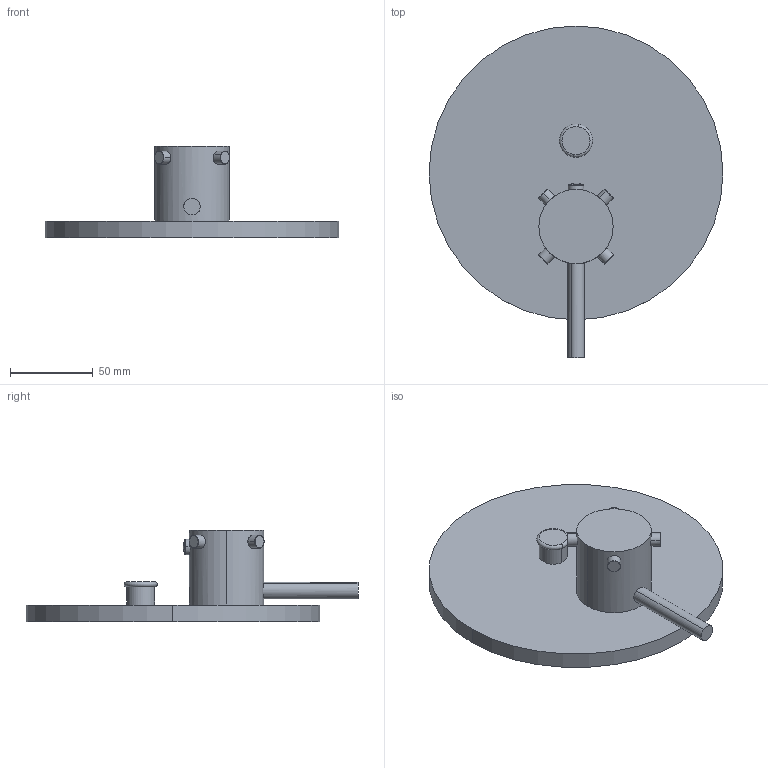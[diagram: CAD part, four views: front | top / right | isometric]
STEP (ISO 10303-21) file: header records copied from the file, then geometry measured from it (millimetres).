
FILE_DESCRIPTION (( 'STEP AP214' ), '1' );
FILE_NAME ('13119010 x architetti.STEP', '2024-09-25T08:25:18', ( '' ), ( '' ), 'SwSTEP 2.0', 'SolidWorks 2020', '' );
FILE_SCHEMA (( 'AUTOMOTIVE_DESIGN' ));
Length unit declared in the file: millimetre
Products named in the file (1): 13119010 x architetti
Bounding box: 177.8 x 200.9 x 55.1 mm (x, y, z)
Volume: 328129.5 mm3; surface area: 66449.1 mm2
Topology: 1 solids, 9 shells, 95 faces, 206 edges, 124 vertices
Faces by surface type: cylinder 50, plane 19, torus 12, cone 10, bspline 4
Entity records: 4216 total; most frequent: CARTESIAN_POINT 1259, DIRECTION 434, ORIENTED_EDGE 388, EDGE_CURVE 194, AXIS2_PLACEMENT_3D 185, VERTEX_POINT 124, EDGE_LOOP 108, FACE_OUTER_BOUND 95
